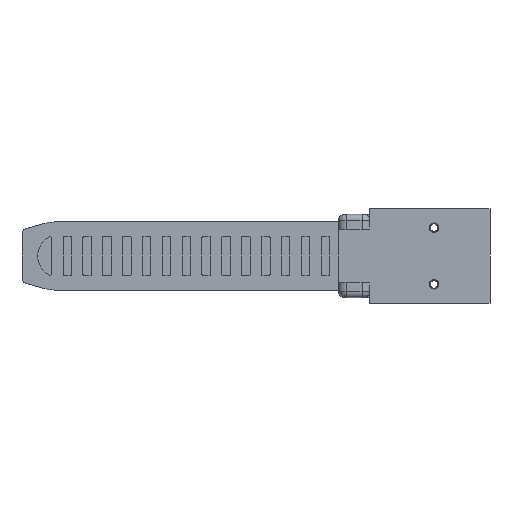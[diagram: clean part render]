
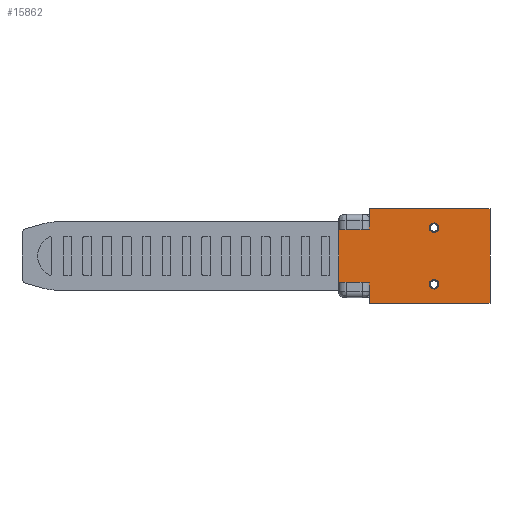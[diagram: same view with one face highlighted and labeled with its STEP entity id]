
A CAD part, front view. The second image highlights one B-rep face of the part: STEP entity #15862.
In plain terms, the highlighted planar face has unit normal (0, -1, 0).
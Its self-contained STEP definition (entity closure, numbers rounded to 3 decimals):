
#187 = DIRECTION ( 'NONE',  ( 0., 1., 0. ) ) ;
#663 = EDGE_CURVE ( 'NONE', #5601, #9405, #4239, .T. ) ;
#702 = VERTEX_POINT ( 'NONE', #14935 ) ;
#835 = CARTESIAN_POINT ( 'NONE',  ( 11., -5., -7.5 ) ) ;
#1040 = DIRECTION ( 'NONE',  ( 1., 0., 0. ) ) ;
#1150 = CARTESIAN_POINT ( 'NONE',  ( -14.2, -5., 12.5 ) ) ;
#1298 = FACE_BOUND ( 'NONE', #12169, .T. ) ;
#1567 = EDGE_LOOP ( 'NONE', ( #15698, #7423, #19885, #9131, #7146, #12588, #19481, #9064 ) ) ;
#1579 = LINE ( 'NONE', #8468, #13328 ) ;
#1623 = PLANE ( 'NONE',  #4964 ) ;
#1905 = ORIENTED_EDGE ( 'NONE', *, *, #6990, .T. ) ;
#2507 = CARTESIAN_POINT ( 'NONE',  ( -6., -5., -7.8 ) ) ;
#2689 = CARTESIAN_POINT ( 'NONE',  ( -14.2, -5., 7.8 ) ) ;
#2690 = CARTESIAN_POINT ( 'NONE',  ( -14.2, -5., -7.8 ) ) ;
#2763 = DIRECTION ( 'NONE',  ( 0., 0., -1. ) ) ;
#3016 = LINE ( 'NONE', #2689, #18822 ) ;
#3593 = DIRECTION ( 'NONE',  ( 1., 0., 0. ) ) ;
#3839 = CARTESIAN_POINT ( 'NONE',  ( 11., -5., 7.5 ) ) ;
#3890 = ORIENTED_EDGE ( 'NONE', *, *, #18537, .T. ) ;
#4239 = CIRCLE ( 'NONE', #16726, 1.25 ) ;
#4539 = VERTEX_POINT ( 'NONE', #2507 ) ;
#4964 = AXIS2_PLACEMENT_3D ( 'NONE', #9380, #187, #10928 ) ;
#5098 = CARTESIAN_POINT ( 'NONE',  ( -6., -5., 7.8 ) ) ;
#5119 = LINE ( 'NONE', #10952, #13292 ) ;
#5349 = DIRECTION ( 'NONE',  ( 0., 0., 1. ) ) ;
#5601 = VERTEX_POINT ( 'NONE', #14751 ) ;
#5626 = DIRECTION ( 'NONE',  ( 0., 1., 0. ) ) ;
#5825 = DIRECTION ( 'NONE',  ( 0., 1., 0. ) ) ;
#6429 = CARTESIAN_POINT ( 'NONE',  ( 11., -5., 8.75 ) ) ;
#6990 = EDGE_CURVE ( 'NONE', #9405, #5601, #18907, .T. ) ;
#7146 = ORIENTED_EDGE ( 'NONE', *, *, #14280, .F. ) ;
#7423 = ORIENTED_EDGE ( 'NONE', *, *, #17499, .T. ) ;
#7677 = VERTEX_POINT ( 'NONE', #6429 ) ;
#7762 = DIRECTION ( 'NONE',  ( 0., 0., -1. ) ) ;
#7993 = LINE ( 'NONE', #13456, #12046 ) ;
#8042 = AXIS2_PLACEMENT_3D ( 'NONE', #3839, #14547, #5349 ) ;
#8142 = CARTESIAN_POINT ( 'NONE',  ( -14.2, -5., -12.5 ) ) ;
#8315 = VERTEX_POINT ( 'NONE', #2690 ) ;
#8427 = LINE ( 'NONE', #13700, #16578 ) ;
#8468 = CARTESIAN_POINT ( 'NONE',  ( 25.8, -5., 12.5 ) ) ;
#8630 = VERTEX_POINT ( 'NONE', #16594 ) ;
#8701 = DIRECTION ( 'NONE',  ( 0., 0., 1. ) ) ;
#8896 = EDGE_CURVE ( 'NONE', #702, #15787, #10325, .T. ) ;
#9064 = ORIENTED_EDGE ( 'NONE', *, *, #11202, .T. ) ;
#9068 = CARTESIAN_POINT ( 'NONE',  ( -14.2, -5., 7.8 ) ) ;
#9131 = ORIENTED_EDGE ( 'NONE', *, *, #12892, .F. ) ;
#9182 = EDGE_CURVE ( 'NONE', #8630, #7677, #12928, .T. ) ;
#9380 = CARTESIAN_POINT ( 'NONE',  ( -14.2, -5., 12.5 ) ) ;
#9400 = AXIS2_PLACEMENT_3D ( 'NONE', #14831, #5626, #16378 ) ;
#9405 = VERTEX_POINT ( 'NONE', #15565 ) ;
#9613 = LINE ( 'NONE', #10234, #10767 ) ;
#10234 = CARTESIAN_POINT ( 'NONE',  ( -14.2, -5., 12.5 ) ) ;
#10325 = LINE ( 'NONE', #8142, #13886 ) ;
#10767 = VECTOR ( 'NONE', #1040, 1000. ) ;
#10882 = AXIS2_PLACEMENT_3D ( 'NONE', #15030, #5825, #16576 ) ;
#10928 = DIRECTION ( 'NONE',  ( 0., 0., 1. ) ) ;
#10952 = CARTESIAN_POINT ( 'NONE',  ( -14.2, -5., -7.8 ) ) ;
#11202 = EDGE_CURVE ( 'NONE', #13809, #8315, #13960, .T. ) ;
#11221 = EDGE_CURVE ( 'NONE', #14847, #19824, #7993, .T. ) ;
#11281 = CARTESIAN_POINT ( 'NONE',  ( -6., -5., 12.5 ) ) ;
#12046 = VECTOR ( 'NONE', #2763, 1000. ) ;
#12169 = EDGE_LOOP ( 'NONE', ( #1905, #14903 ) ) ;
#12401 = DIRECTION ( 'NONE',  ( -1., 0., 0. ) ) ;
#12588 = ORIENTED_EDGE ( 'NONE', *, *, #11221, .T. ) ;
#12892 = EDGE_CURVE ( 'NONE', #14235, #15787, #1579, .T. ) ;
#12928 = CIRCLE ( 'NONE', #10882, 1.25 ) ;
#13292 = VECTOR ( 'NONE', #12401, 1000. ) ;
#13328 = VECTOR ( 'NONE', #19179, 1000. ) ;
#13456 = CARTESIAN_POINT ( 'NONE',  ( -6., -5., 12.5 ) ) ;
#13469 = ORIENTED_EDGE ( 'NONE', *, *, #9182, .T. ) ;
#13486 = VECTOR ( 'NONE', #19501, 1000. ) ;
#13700 = CARTESIAN_POINT ( 'NONE',  ( -6., -5., 12.5 ) ) ;
#13809 = VERTEX_POINT ( 'NONE', #9068 ) ;
#13886 = VECTOR ( 'NONE', #3593, 1000. ) ;
#13960 = LINE ( 'NONE', #1150, #13486 ) ;
#14235 = VERTEX_POINT ( 'NONE', #17653 ) ;
#14280 = EDGE_CURVE ( 'NONE', #14847, #14235, #9613, .T. ) ;
#14547 = DIRECTION ( 'NONE',  ( 0., 1., 0. ) ) ;
#14751 = CARTESIAN_POINT ( 'NONE',  ( 11., -5., -8.75 ) ) ;
#14831 = CARTESIAN_POINT ( 'NONE',  ( 11., -5., -7.5 ) ) ;
#14847 = VERTEX_POINT ( 'NONE', #11281 ) ;
#14903 = ORIENTED_EDGE ( 'NONE', *, *, #663, .T. ) ;
#14935 = CARTESIAN_POINT ( 'NONE',  ( -6., -5., -12.5 ) ) ;
#15030 = CARTESIAN_POINT ( 'NONE',  ( 11., -5., 7.5 ) ) ;
#15565 = CARTESIAN_POINT ( 'NONE',  ( 11., -5., -6.25 ) ) ;
#15698 = ORIENTED_EDGE ( 'NONE', *, *, #19716, .F. ) ;
#15787 = VERTEX_POINT ( 'NONE', #18356 ) ;
#15862 = ADVANCED_FACE ( 'NONE', ( #1298, #17111, #18547 ), #1623, .F. ) ;
#15968 = CIRCLE ( 'NONE', #8042, 1.25 ) ;
#16378 = DIRECTION ( 'NONE',  ( 0., 0., 1. ) ) ;
#16576 = DIRECTION ( 'NONE',  ( 0., 0., 1. ) ) ;
#16578 = VECTOR ( 'NONE', #7762, 1000. ) ;
#16594 = CARTESIAN_POINT ( 'NONE',  ( 11., -5., 6.25 ) ) ;
#16726 = AXIS2_PLACEMENT_3D ( 'NONE', #835, #17892, #8701 ) ;
#17111 = FACE_BOUND ( 'NONE', #19445, .T. ) ;
#17499 = EDGE_CURVE ( 'NONE', #4539, #702, #8427, .T. ) ;
#17653 = CARTESIAN_POINT ( 'NONE',  ( 25.8, -5., 12.5 ) ) ;
#17892 = DIRECTION ( 'NONE',  ( 0., 1., 0. ) ) ;
#18006 = DIRECTION ( 'NONE',  ( 1., 0., 0. ) ) ;
#18356 = CARTESIAN_POINT ( 'NONE',  ( 25.8, -5., -12.5 ) ) ;
#18537 = EDGE_CURVE ( 'NONE', #7677, #8630, #15968, .T. ) ;
#18547 = FACE_OUTER_BOUND ( 'NONE', #1567, .T. ) ;
#18822 = VECTOR ( 'NONE', #18006, 1000. ) ;
#18907 = CIRCLE ( 'NONE', #9400, 1.25 ) ;
#19179 = DIRECTION ( 'NONE',  ( 0., 0., -1. ) ) ;
#19445 = EDGE_LOOP ( 'NONE', ( #3890, #13469 ) ) ;
#19481 = ORIENTED_EDGE ( 'NONE', *, *, #19529, .F. ) ;
#19501 = DIRECTION ( 'NONE',  ( 0., 0., -1. ) ) ;
#19529 = EDGE_CURVE ( 'NONE', #13809, #19824, #3016, .T. ) ;
#19716 = EDGE_CURVE ( 'NONE', #4539, #8315, #5119, .T. ) ;
#19824 = VERTEX_POINT ( 'NONE', #5098 ) ;
#19885 = ORIENTED_EDGE ( 'NONE', *, *, #8896, .T. ) ;
